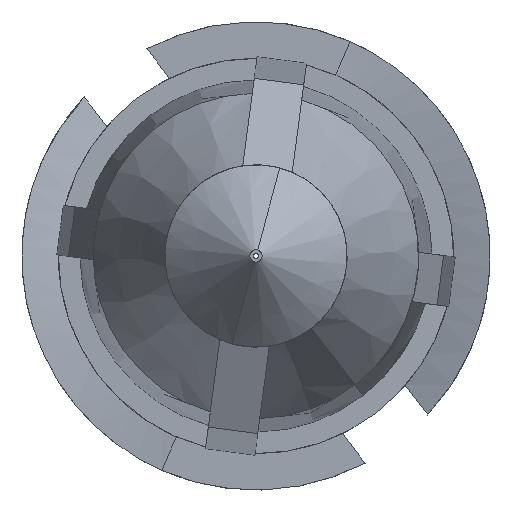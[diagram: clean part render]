
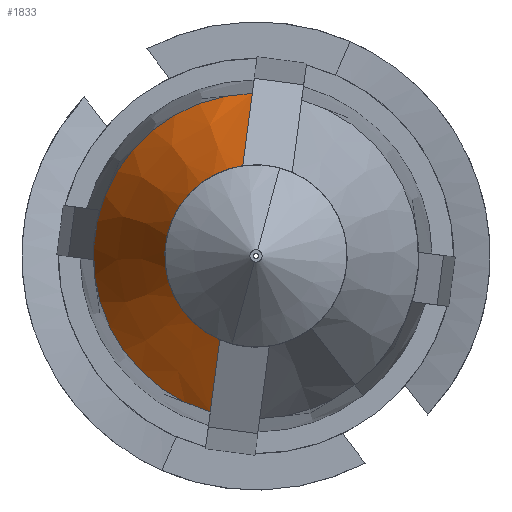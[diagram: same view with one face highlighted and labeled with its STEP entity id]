
A CAD part, left-side view. The second image highlights one B-rep face of the part: STEP entity #1833.
In plain terms, the highlighted conical face has half-angle 23.742 degrees and reference radius 2.674 mm.
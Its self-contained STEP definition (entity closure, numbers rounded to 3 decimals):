
#138 = CARTESIAN_POINT ( 'NONE',  ( -13.08, 0., 1.5 ) ) ;
#140 = VERTEX_POINT ( 'NONE', #138 ) ;
#150 = CARTESIAN_POINT ( 'NONE',  ( -11.301, -1.298, 1.878 ) ) ;
#175 = DIRECTION ( 'NONE',  ( 1., 0., 0. ) ) ;
#199 = AXIS2_PLACEMENT_3D ( 'NONE', #2150, #1542, #867 ) ;
#297 = FACE_OUTER_BOUND ( 'NONE', #528, .T. ) ;
#337 = CIRCLE ( 'NONE', #1920, 1.5 ) ;
#488 = EDGE_CURVE ( 'NONE', #846, #2356, #2386, .T. ) ;
#508 = ORIENTED_EDGE ( 'NONE', *, *, #1133, .F. ) ;
#528 = EDGE_LOOP ( 'NONE', ( #508, #1797, #1690, #1637, #959 ) ) ;
#639 = CARTESIAN_POINT ( 'NONE',  ( -10.41, -1.579, 2.159 ) ) ;
#765 = VERTEX_POINT ( 'NONE', #1460 ) ;
#790 = B_SPLINE_CURVE_WITH_KNOTS ( 'NONE', 3,
 ( #977, #1806, #1151, #1406 ),
 .UNSPECIFIED., .F., .F.,
 ( 4, 4 ),
 ( 0., 0.003 ),
 .UNSPECIFIED. ) ;
#798 = AXIS2_PLACEMENT_3D ( 'NONE', #1375, #965, #2242 ) ;
#846 = VERTEX_POINT ( 'NONE', #2562 ) ;
#867 = DIRECTION ( 'NONE',  ( 0., 0., -1. ) ) ;
#906 = VERTEX_POINT ( 'NONE', #1326 ) ;
#959 = ORIENTED_EDGE ( 'NONE', *, *, #2221, .T. ) ;
#965 = DIRECTION ( 'NONE',  ( 1., 0., 0. ) ) ;
#977 = CARTESIAN_POINT ( 'NONE',  ( -10.41, 2.159, -1.579 ) ) ;
#1050 = CARTESIAN_POINT ( 'NONE',  ( -13.08, 0., 0. ) ) ;
#1133 = EDGE_CURVE ( 'NONE', #2356, #906, #2334, .T. ) ;
#1151 = CARTESIAN_POINT ( 'NONE',  ( -12.193, 1.597, -1.017 ) ) ;
#1302 = CIRCLE ( 'NONE', #1664, 1.5 ) ;
#1326 = CARTESIAN_POINT ( 'NONE',  ( -13.08, -0.73, 1.31 ) ) ;
#1363 = DIRECTION ( 'NONE',  ( 0., 0., -1. ) ) ;
#1375 = CARTESIAN_POINT ( 'NONE',  ( -10.41, 0., 0. ) ) ;
#1406 = CARTESIAN_POINT ( 'NONE',  ( -13.08, 1.31, -0.73 ) ) ;
#1460 = CARTESIAN_POINT ( 'NONE',  ( -13.08, 1.31, -0.73 ) ) ;
#1542 = DIRECTION ( 'NONE',  ( 1., 0., 0. ) ) ;
#1624 = CARTESIAN_POINT ( 'NONE',  ( -13.08, -0.73, 1.31 ) ) ;
#1637 = ORIENTED_EDGE ( 'NONE', *, *, #1746, .T. ) ;
#1664 = AXIS2_PLACEMENT_3D ( 'NONE', #1826, #2272, #1363 ) ;
#1690 = ORIENTED_EDGE ( 'NONE', *, *, #2115, .T. ) ;
#1746 = EDGE_CURVE ( 'NONE', #765, #140, #1302, .T. ) ;
#1797 = ORIENTED_EDGE ( 'NONE', *, *, #488, .F. ) ;
#1806 = CARTESIAN_POINT ( 'NONE',  ( -11.301, 1.878, -1.298 ) ) ;
#1826 = CARTESIAN_POINT ( 'NONE',  ( -13.08, 0., 0. ) ) ;
#1828 = CARTESIAN_POINT ( 'NONE',  ( -12.193, -1.017, 1.597 ) ) ;
#1833 = ADVANCED_FACE ( 'NONE', ( #297 ), #1879, .T. ) ;
#1879 = CONICAL_SURFACE ( 'NONE', #798, 2.674, 0.414 ) ;
#1920 = AXIS2_PLACEMENT_3D ( 'NONE', #1050, #175, #2530 ) ;
#2088 = CARTESIAN_POINT ( 'NONE',  ( -10.41, -1.579, 2.159 ) ) ;
#2115 = EDGE_CURVE ( 'NONE', #846, #765, #790, .T. ) ;
#2150 = CARTESIAN_POINT ( 'NONE',  ( -10.41, 0., 0. ) ) ;
#2221 = EDGE_CURVE ( 'NONE', #140, #906, #337, .T. ) ;
#2242 = DIRECTION ( 'NONE',  ( 0., 0., -1. ) ) ;
#2272 = DIRECTION ( 'NONE',  ( 1., 0., 0. ) ) ;
#2334 = B_SPLINE_CURVE_WITH_KNOTS ( 'NONE', 3,
 ( #2088, #150, #1828, #1624 ),
 .UNSPECIFIED., .F., .F.,
 ( 4, 4 ),
 ( 0., 0.003 ),
 .UNSPECIFIED. ) ;
#2356 = VERTEX_POINT ( 'NONE', #639 ) ;
#2386 = CIRCLE ( 'NONE', #199, 2.674 ) ;
#2530 = DIRECTION ( 'NONE',  ( 0., 0., -1. ) ) ;
#2562 = CARTESIAN_POINT ( 'NONE',  ( -10.41, 2.159, -1.579 ) ) ;
